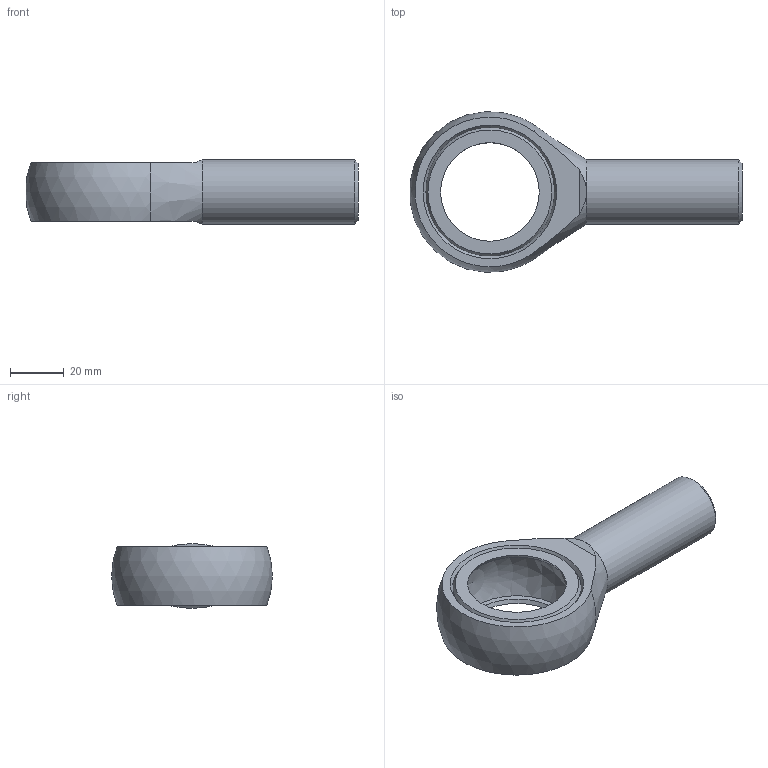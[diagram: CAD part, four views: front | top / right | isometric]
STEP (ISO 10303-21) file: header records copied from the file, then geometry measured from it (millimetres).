
FILE_DESCRIPTION (( 'STEP AP214' ), '1' );
FILE_NAME ('HL-3-003 5t-10t.STEP', '2025-06-18T13:54:10', ( '' ), ( '' ), 'SwSTEP 2.0', 'SolidWorks 2023', '' );
FILE_SCHEMA (( 'AUTOMOTIVE_DESIGN' ));
Length unit declared in the file: millimetre
Products named in the file (1): HL-3-003 5t-10t
Bounding box: 123.8 x 59.9 x 24 mm (x, y, z)
Volume: 56429.4 mm3; surface area: 16215.7 mm2
Topology: 1 solids, 1 shells, 21 faces, 39 edges, 26 vertices
Faces by surface type: plane 9, cone 7, sphere 4, cylinder 1
Full cylindrical faces by diameter (mm): 24 x1
Entity records: 1040 total; most frequent: CARTESIAN_POINT 400, DIRECTION 82, ORIENTED_EDGE 60, AXIS2_PLACEMENT_3D 40, EDGE_LOOP 36, EDGE_CURVE 30, FACE_OUTER_BOUND 25, VERTEX_POINT 24
